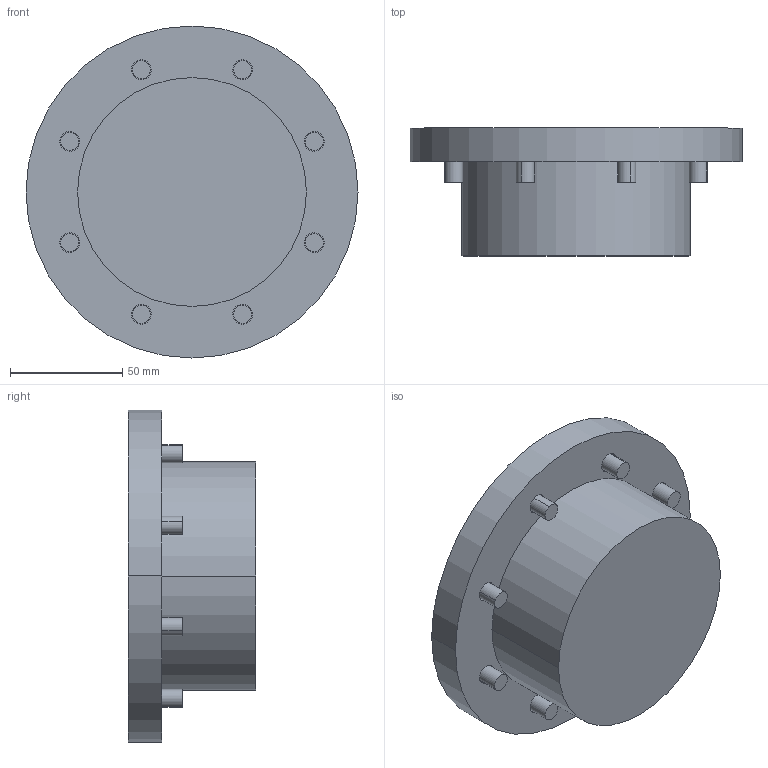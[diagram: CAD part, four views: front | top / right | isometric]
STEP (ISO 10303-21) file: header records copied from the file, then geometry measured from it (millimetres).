
FILE_DESCRIPTION( ( '' ), '1' );
FILE_NAME( 'C:/Data/AMF303057.stp', '2013-11-22T02:22:48', ( '' ), ( '' ), ' ', ' ', ' ' );
FILE_SCHEMA( ( 'CONFIG_CONTROL_DESIGN' ) );
Length unit declared in the file: millimetre
Products named in the file (1): 1
Bounding box: 148 x 57 x 148 mm (x, y, z)
Volume: 546217.2 mm3; surface area: 71293 mm2
Topology: 1 solids, 1 shells, 165 faces, 360 edges, 240 vertices
Faces by surface type: plane 93, cylinder 72
Entity records: 4602 total; most frequent: DIRECTION 836, CARTESIAN_POINT 766, ORIENTED_EDGE 720, EDGE_CURVE 360, AXIS2_PLACEMENT_3D 310, VERTEX_POINT 240, LINE 216, VECTOR 216
